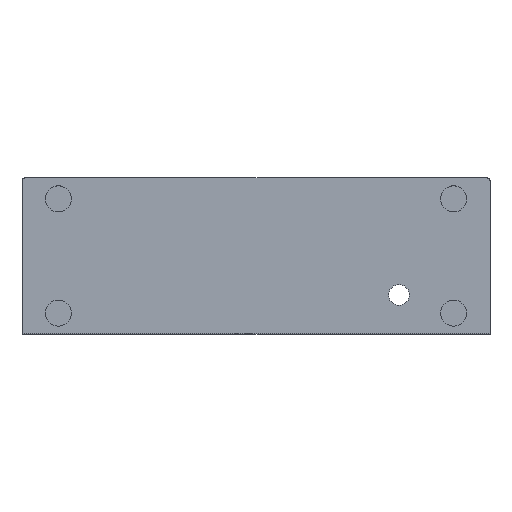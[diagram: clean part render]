
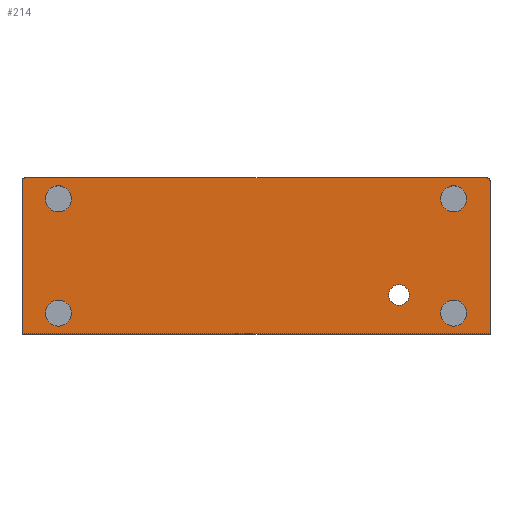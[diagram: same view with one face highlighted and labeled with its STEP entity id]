
A CAD part, top view. The second image highlights one B-rep face of the part: STEP entity #214.
In plain terms, the highlighted planar face has unit normal (0, 0, 1).
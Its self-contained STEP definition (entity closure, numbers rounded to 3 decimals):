
#16 = CARTESIAN_POINT ( 'NONE',  ( -81., 22., 3. ) ) ;
#36 = VERTEX_POINT ( 'NONE', #761 ) ;
#59 = CARTESIAN_POINT ( 'NONE',  ( -71., 22., 3. ) ) ;
#64 = DIRECTION ( 'NONE',  ( 0., 0., -1. ) ) ;
#68 = ORIENTED_EDGE ( 'NONE', *, *, #276, .F. ) ;
#71 = CARTESIAN_POINT ( 'NONE',  ( -89., 29., 3. ) ) ;
#72 = DIRECTION ( 'NONE',  ( 0., 0., 1. ) ) ;
#74 = DIRECTION ( 'NONE',  ( -1., 0., 0. ) ) ;
#83 = PLANE ( 'NONE',  #525 ) ;
#86 = CARTESIAN_POINT ( 'NONE',  ( -90., -30., 3. ) ) ;
#87 = FACE_OUTER_BOUND ( 'NONE', #243, .T. ) ;
#97 = EDGE_LOOP ( 'NONE', ( #421, #343 ) ) ;
#101 = ORIENTED_EDGE ( 'NONE', *, *, #143, .F. ) ;
#103 = DIRECTION ( 'NONE',  ( 0., 0., 1. ) ) ;
#106 = VERTEX_POINT ( 'NONE', #773 ) ;
#107 = VERTEX_POINT ( 'NONE', #491 ) ;
#112 = VERTEX_POINT ( 'NONE', #732 ) ;
#114 = DIRECTION ( 'NONE',  ( 1., 0., 0. ) ) ;
#123 = AXIS2_PLACEMENT_3D ( 'NONE', #202, #64, #314 ) ;
#124 = ORIENTED_EDGE ( 'NONE', *, *, #456, .T. ) ;
#143 = EDGE_CURVE ( 'NONE', #646, #475, #209, .T. ) ;
#148 = DIRECTION ( 'NONE',  ( 0., 0., -1. ) ) ;
#150 = DIRECTION ( 'NONE',  ( 1., 0., 0. ) ) ;
#153 = CIRCLE ( 'NONE', #154, 5. ) ;
#154 = AXIS2_PLACEMENT_3D ( 'NONE', #412, #664, #529 ) ;
#156 = CARTESIAN_POINT ( 'NONE',  ( 81., 22., 3. ) ) ;
#157 = DIRECTION ( 'NONE',  ( 0., 0., 1. ) ) ;
#161 = ORIENTED_EDGE ( 'NONE', *, *, #164, .T. ) ;
#164 = EDGE_CURVE ( 'NONE', #240, #589, #247, .T. ) ;
#173 = CARTESIAN_POINT ( 'NONE',  ( -76., -22., 3. ) ) ;
#186 = CARTESIAN_POINT ( 'NONE',  ( 76., 22., 3. ) ) ;
#187 = EDGE_CURVE ( 'NONE', #36, #614, #495, .T. ) ;
#189 = DIRECTION ( 'NONE',  ( 0., 0., 1. ) ) ;
#192 = ORIENTED_EDGE ( 'NONE', *, *, #764, .T. ) ;
#202 = CARTESIAN_POINT ( 'NONE',  ( 55., -15., 3. ) ) ;
#206 = AXIS2_PLACEMENT_3D ( 'NONE', #173, #242, #482 ) ;
#209 = CIRCLE ( 'NONE', #565, 5. ) ;
#214 = ADVANCED_FACE ( 'NONE', ( #272, #289, #534, #605, #792, #87 ), #83, .F. ) ;
#222 = CARTESIAN_POINT ( 'NONE',  ( 0., 0., 3. ) ) ;
#226 = ORIENTED_EDGE ( 'NONE', *, *, #645, .T. ) ;
#232 = AXIS2_PLACEMENT_3D ( 'NONE', #186, #449, #573 ) ;
#234 = CIRCLE ( 'NONE', #206, 5. ) ;
#236 = CIRCLE ( 'NONE', #486, 5. ) ;
#237 = DIRECTION ( 'NONE',  ( 0., -1., 0. ) ) ;
#240 = VERTEX_POINT ( 'NONE', #682 ) ;
#242 = DIRECTION ( 'NONE',  ( 0., 0., 1. ) ) ;
#243 = EDGE_LOOP ( 'NONE', ( #735, #679, #161, #226, #192, #737 ) ) ;
#246 = VECTOR ( 'NONE', #150, 1000. ) ;
#247 = LINE ( 'NONE', #428, #381 ) ;
#259 = DIRECTION ( 'NONE',  ( -1., 0., 0. ) ) ;
#261 = CARTESIAN_POINT ( 'NONE',  ( 51., -15., 3. ) ) ;
#272 = FACE_BOUND ( 'NONE', #659, .T. ) ;
#274 = CARTESIAN_POINT ( 'NONE',  ( -90., -30., 3. ) ) ;
#276 = EDGE_CURVE ( 'NONE', #106, #670, #339, .T. ) ;
#277 = CIRCLE ( 'NONE', #123, 4. ) ;
#285 = VERTEX_POINT ( 'NONE', #261 ) ;
#289 = FACE_BOUND ( 'NONE', #542, .T. ) ;
#294 = CARTESIAN_POINT ( 'NONE',  ( 55., -15., 3. ) ) ;
#304 = AXIS2_PLACEMENT_3D ( 'NONE', #580, #72, #705 ) ;
#305 = EDGE_LOOP ( 'NONE', ( #376, #468 ) ) ;
#306 = CARTESIAN_POINT ( 'NONE',  ( -76., 22., 3. ) ) ;
#311 = EDGE_CURVE ( 'NONE', #285, #112, #402, .T. ) ;
#312 = CARTESIAN_POINT ( 'NONE',  ( -90., 30., 3. ) ) ;
#314 = DIRECTION ( 'NONE',  ( -1., 0., 0. ) ) ;
#316 = AXIS2_PLACEMENT_3D ( 'NONE', #691, #189, #259 ) ;
#335 = EDGE_CURVE ( 'NONE', #771, #609, #236, .T. ) ;
#337 = EDGE_CURVE ( 'NONE', #609, #771, #153, .T. ) ;
#339 = CIRCLE ( 'NONE', #304, 5. ) ;
#343 = ORIENTED_EDGE ( 'NONE', *, *, #524, .F. ) ;
#344 = CARTESIAN_POINT ( 'NONE',  ( 71., -22., 3. ) ) ;
#354 = CARTESIAN_POINT ( 'NONE',  ( 81., -22., 3. ) ) ;
#362 = CARTESIAN_POINT ( 'NONE',  ( -76., 22., 3. ) ) ;
#367 = CIRCLE ( 'NONE', #753, 5. ) ;
#376 = ORIENTED_EDGE ( 'NONE', *, *, #335, .F. ) ;
#379 = CIRCLE ( 'NONE', #585, 1. ) ;
#381 = VECTOR ( 'NONE', #237, 1000. ) ;
#402 = CIRCLE ( 'NONE', #514, 4. ) ;
#412 = CARTESIAN_POINT ( 'NONE',  ( 76., -22., 3. ) ) ;
#415 = LINE ( 'NONE', #492, #648 ) ;
#416 = ORIENTED_EDGE ( 'NONE', *, *, #311, .T. ) ;
#421 = ORIENTED_EDGE ( 'NONE', *, *, #723, .F. ) ;
#428 = CARTESIAN_POINT ( 'NONE',  ( -90., -30., 3. ) ) ;
#432 = DIRECTION ( 'NONE',  ( 0., 0., 1. ) ) ;
#443 = ORIENTED_EDGE ( 'NONE', *, *, #459, .F. ) ;
#446 = EDGE_CURVE ( 'NONE', #614, #240, #379, .T. ) ;
#449 = DIRECTION ( 'NONE',  ( 0., 0., 1. ) ) ;
#456 = EDGE_CURVE ( 'NONE', #112, #285, #277, .T. ) ;
#459 = EDGE_CURVE ( 'NONE', #670, #106, #511, .T. ) ;
#460 = DIRECTION ( 'NONE',  ( 0., 0., -1. ) ) ;
#468 = ORIENTED_EDGE ( 'NONE', *, *, #337, .F. ) ;
#470 = DIRECTION ( 'NONE',  ( 1., 0., 0. ) ) ;
#471 = DIRECTION ( 'NONE',  ( -1., 0., 0. ) ) ;
#475 = VERTEX_POINT ( 'NONE', #59 ) ;
#482 = DIRECTION ( 'NONE',  ( 1., 0., 0. ) ) ;
#486 = AXIS2_PLACEMENT_3D ( 'NONE', #532, #157, #470 ) ;
#491 = CARTESIAN_POINT ( 'NONE',  ( -81., -22., 3. ) ) ;
#492 = CARTESIAN_POINT ( 'NONE',  ( 90., -30., 3. ) ) ;
#495 = LINE ( 'NONE', #312, #671 ) ;
#504 = CARTESIAN_POINT ( 'NONE',  ( -76., -22., 3. ) ) ;
#510 = DIRECTION ( 'NONE',  ( 1., 0., 0. ) ) ;
#511 = CIRCLE ( 'NONE', #232, 5. ) ;
#514 = AXIS2_PLACEMENT_3D ( 'NONE', #294, #460, #814 ) ;
#521 = CARTESIAN_POINT ( 'NONE',  ( 90., -30., 3. ) ) ;
#523 = CARTESIAN_POINT ( 'NONE',  ( -89., 30., 3. ) ) ;
#524 = EDGE_CURVE ( 'NONE', #107, #783, #367, .T. ) ;
#525 = AXIS2_PLACEMENT_3D ( 'NONE', #222, #148, #471 ) ;
#529 = DIRECTION ( 'NONE',  ( 1., 0., 0. ) ) ;
#532 = CARTESIAN_POINT ( 'NONE',  ( 76., -22., 3. ) ) ;
#534 = FACE_BOUND ( 'NONE', #305, .T. ) ;
#538 = ORIENTED_EDGE ( 'NONE', *, *, #702, .F. ) ;
#542 = EDGE_LOOP ( 'NONE', ( #443, #68 ) ) ;
#545 = DIRECTION ( 'NONE',  ( 1., 0., 0. ) ) ;
#565 = AXIS2_PLACEMENT_3D ( 'NONE', #306, #812, #114 ) ;
#567 = DIRECTION ( 'NONE',  ( 0., 0., 1. ) ) ;
#573 = DIRECTION ( 'NONE',  ( 1., 0., 0. ) ) ;
#580 = CARTESIAN_POINT ( 'NONE',  ( 76., 22., 3. ) ) ;
#585 = AXIS2_PLACEMENT_3D ( 'NONE', #71, #567, #772 ) ;
#589 = VERTEX_POINT ( 'NONE', #274 ) ;
#595 = VERTEX_POINT ( 'NONE', #521 ) ;
#605 = FACE_BOUND ( 'NONE', #97, .T. ) ;
#609 = VERTEX_POINT ( 'NONE', #344 ) ;
#614 = VERTEX_POINT ( 'NONE', #523 ) ;
#617 = VERTEX_POINT ( 'NONE', #774 ) ;
#645 = EDGE_CURVE ( 'NONE', #589, #595, #651, .T. ) ;
#646 = VERTEX_POINT ( 'NONE', #16 ) ;
#648 = VECTOR ( 'NONE', #666, 1000. ) ;
#651 = LINE ( 'NONE', #86, #246 ) ;
#659 = EDGE_LOOP ( 'NONE', ( #416, #124 ) ) ;
#664 = DIRECTION ( 'NONE',  ( 0., 0., 1. ) ) ;
#666 = DIRECTION ( 'NONE',  ( 0., 1., 0. ) ) ;
#670 = VERTEX_POINT ( 'NONE', #156 ) ;
#671 = VECTOR ( 'NONE', #74, 1000. ) ;
#679 = ORIENTED_EDGE ( 'NONE', *, *, #446, .T. ) ;
#682 = CARTESIAN_POINT ( 'NONE',  ( -90., 29., 3. ) ) ;
#685 = AXIS2_PLACEMENT_3D ( 'NONE', #362, #103, #545 ) ;
#691 = CARTESIAN_POINT ( 'NONE',  ( 89., 29., 3. ) ) ;
#702 = EDGE_CURVE ( 'NONE', #475, #646, #736, .T. ) ;
#705 = DIRECTION ( 'NONE',  ( 1., 0., 0. ) ) ;
#723 = EDGE_CURVE ( 'NONE', #783, #107, #234, .T. ) ;
#732 = CARTESIAN_POINT ( 'NONE',  ( 59., -15., 3. ) ) ;
#735 = ORIENTED_EDGE ( 'NONE', *, *, #187, .T. ) ;
#736 = CIRCLE ( 'NONE', #685, 5. ) ;
#737 = ORIENTED_EDGE ( 'NONE', *, *, #801, .T. ) ;
#753 = AXIS2_PLACEMENT_3D ( 'NONE', #504, #432, #510 ) ;
#761 = CARTESIAN_POINT ( 'NONE',  ( 89., 30., 3. ) ) ;
#764 = EDGE_CURVE ( 'NONE', #595, #617, #415, .T. ) ;
#765 = EDGE_LOOP ( 'NONE', ( #538, #101 ) ) ;
#766 = CARTESIAN_POINT ( 'NONE',  ( -71., -22., 3. ) ) ;
#771 = VERTEX_POINT ( 'NONE', #354 ) ;
#772 = DIRECTION ( 'NONE',  ( -1., 0., 0. ) ) ;
#773 = CARTESIAN_POINT ( 'NONE',  ( 71., 22., 3. ) ) ;
#774 = CARTESIAN_POINT ( 'NONE',  ( 90., 29., 3. ) ) ;
#783 = VERTEX_POINT ( 'NONE', #766 ) ;
#792 = FACE_BOUND ( 'NONE', #765, .T. ) ;
#793 = CIRCLE ( 'NONE', #316, 1. ) ;
#801 = EDGE_CURVE ( 'NONE', #617, #36, #793, .T. ) ;
#812 = DIRECTION ( 'NONE',  ( 0., 0., 1. ) ) ;
#814 = DIRECTION ( 'NONE',  ( -1., 0., 0. ) ) ;
